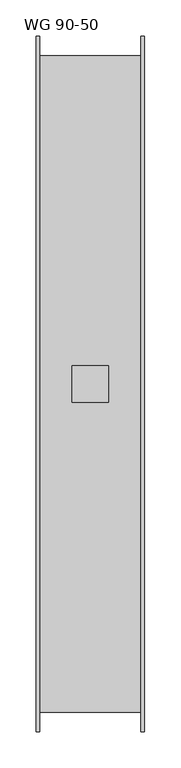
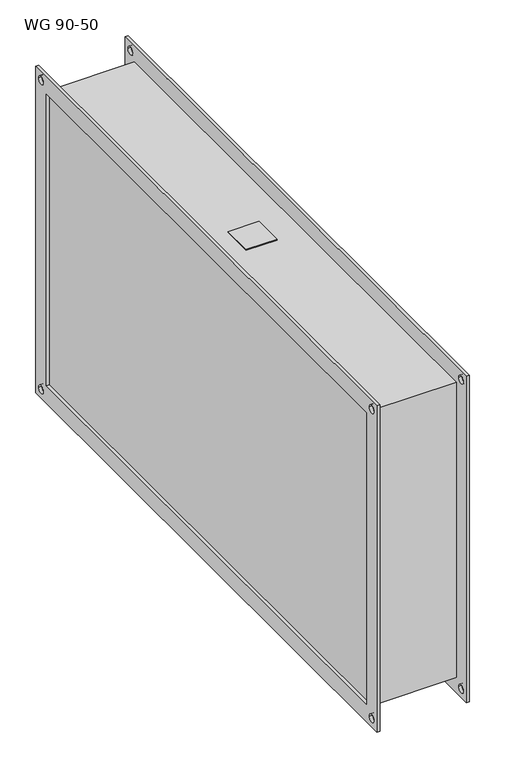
"""IFC4 building model written with IfcOpenShell, lengths in millimetres: damper geometry, KORF_Вставка_Гибкая_WG : WG 90-50."""

import ifcopenshell
import ifcopenshell.guid

model = None  # the IFC model being written
_history = None  # IfcOwnerHistory: only IFC2X3 demands one
_inside = {}  # id of a spatial element -> (the spatial element, [elements in it])
_under = {}  # id of a project, library or spatial element -> (it, [spatial elements below it])
_declared = {}  # id of a project -> (the project, [libraries it declares])
_typed = {}  # id of a type object -> (the type object, [elements of that type])
_made_of = {}  # id of a material, layer set ... -> (it, [elements and type objects made of it])


def new_model(schema):
    """Start an empty IFC model of exactly this schema.

    Asked for "IFC4X3", IfcOpenShell would pick the latest addendum, in which some entities
    have other attributes; the version numbers below select the first issue.
    IFC2X3 requires an IfcOwnerHistory on every rooted entity: one is made here for all.
    """
    global model, _history
    if schema == "IFC4X3":
        model = ifcopenshell.file(schema_version=(4, 3, 0, 0))
    else:
        model = ifcopenshell.file(schema=schema)
    _inside.clear()
    _under.clear()
    _declared.clear()
    _typed.clear()
    _made_of.clear()
    _history = None
    if model.schema == "IFC2X3":
        org = make("IfcOrganization", Name="unknown")
        user = make(
            "IfcPersonAndOrganization",
            ThePerson=make("IfcPerson", FamilyName="unknown"),
            TheOrganization=org,
        )
        app = make(
            "IfcApplication",
            ApplicationDeveloper=org,
            Version="unknown",
            ApplicationFullName="unknown",
            ApplicationIdentifier="unknown",
        )
        _history = make(
            "IfcOwnerHistory",
            OwningUser=user,
            OwningApplication=app,
            ChangeAction="ADDED",
            CreationDate=0,
        )
    return model


def make(cls, **values):
    """One entity of the class cls with the attributes given. An attribute that is None is left unset."""
    return model.create_entity(
        cls, **{name: value for name, value in values.items() if value is not None}
    )


def rooted(cls, **values):
    """An entity with a GlobalId (a new one), such as an element, a storey or a relation."""
    return make(cls, GlobalId=ifcopenshell.guid.new(), OwnerHistory=_history, **values)


def si_unit(unit_type, name, prefix=None):
    """IfcSIUnit, for example si_unit("LENGTHUNIT", "METRE", prefix="MILLI")."""
    return make("IfcSIUnit", UnitType=unit_type, Prefix=prefix, Name=name)


def assignment(units):
    """IfcUnitAssignment: the units of a project."""
    return None if units is None else make("IfcUnitAssignment", Units=units)


def point(xyz):
    """IfcCartesianPoint."""
    return None if xyz is None else make("IfcCartesianPoint", Coordinates=xyz)


def direction(xyz):
    """IfcDirection."""
    return None if xyz is None else make("IfcDirection", DirectionRatios=xyz)


def frame(location, z_axis=None, x_axis=None):
    """IfcAxis2Placement3D, a coordinate frame: its origin and axes. An axis left out is left unset."""
    return make(
        "IfcAxis2Placement3D",
        Location=point(location),
        Axis=direction(z_axis),
        RefDirection=direction(x_axis),
    )


def frame_2d(location, x_axis=None):
    """IfcAxis2Placement2D, a coordinate frame in the plane: its origin and x axis."""
    return make(
        "IfcAxis2Placement2D", Location=point(location), RefDirection=direction(x_axis)
    )


def origin():
    """The frame at (0, 0, 0) with its axes left unset."""
    return frame((0.0, 0.0, 0.0))


def place(relative_to, where):
    """IfcLocalPlacement: puts the frame where relative to a parent placement (None: the world)."""
    return make(
        "IfcLocalPlacement", PlacementRelTo=relative_to, RelativePlacement=where
    )


def context(
    kind, dimensions, precision=None, world=None, true_north=None, identifier=None
):
    """IfcGeometricRepresentationContext, for example the 3D "Model" context."""
    return make(
        "IfcGeometricRepresentationContext",
        ContextIdentifier=identifier,
        ContextType=kind,
        CoordinateSpaceDimension=dimensions,
        Precision=precision,
        WorldCoordinateSystem=world,
        TrueNorth=true_north,
    )


def project(units=None, contexts=None):
    """IfcProject with its units and contexts."""
    return rooted(
        "IfcProject",
        Name="project",
        RepresentationContexts=contexts,
        UnitsInContext=assignment(units),
    )


def spatial(cls, under=None, at=None, **own):
    """A site, building, storey or space (cls), placed at a placement, below another one or the project."""
    s = rooted(cls, ObjectPlacement=at, **own)
    if under is not None:
        _under.setdefault(under.id(), (under, []))[1].append(s)
    return s


def polyline(points):
    """IfcPolyline through the points."""
    return make("IfcPolyline", Points=[point(p) for p in points])


def circle_curve(where, radius):
    """IfcCircle in the frame where."""
    return make("IfcCircle", Position=where, Radius=radius)


def trimmed(basis, trim1, trim2, sense, master):
    """IfcTrimmedCurve: the piece of a basis curve between two trims."""
    return make(
        "IfcTrimmedCurve",
        BasisCurve=basis,
        Trim1=trim1,
        Trim2=trim2,
        SenseAgreement=sense,
        MasterRepresentation=master,
    )


def segment(curve, same_sense, transition):
    """IfcCompositeCurveSegment."""
    return make(
        "IfcCompositeCurveSegment",
        Transition=transition,
        SameSense=same_sense,
        ParentCurve=curve,
    )


def composite_curve(segments, self_intersect=None):
    """IfcCompositeCurve: segments joined end to end."""
    return make("IfcCompositeCurve", Segments=segments, SelfIntersect=self_intersect)


def outline(outer, holes=None, kind="AREA"):
    """IfcArbitraryClosedProfileDef: a profile drawn as a closed curve; with holes, ...WithVoids."""
    if holes is None:
        return make("IfcArbitraryClosedProfileDef", ProfileType=kind, OuterCurve=outer)
    return make(
        "IfcArbitraryProfileDefWithVoids",
        ProfileType=kind,
        OuterCurve=outer,
        InnerCurves=holes,
    )


def extrude(swept, where, along, depth):
    """IfcExtrudedAreaSolid: the profile swept, set in the frame where, extruded along a direction by depth."""
    return make(
        "IfcExtrudedAreaSolid",
        SweptArea=swept,
        Position=where,
        ExtrudedDirection=direction(along),
        Depth=depth,
    )


def shape(context_of_items, identifier, shape_type, items):
    """IfcShapeRepresentation: the items that make up one representation, for example the "Body"."""
    return make(
        "IfcShapeRepresentation",
        ContextOfItems=context_of_items,
        RepresentationIdentifier=identifier,
        RepresentationType=shape_type,
        Items=items,
    )


def source(mapping_origin, context_of_items, identifier, shape_type, items):
    """IfcRepresentationMap: a shape defined once, which mapped items show again and again."""
    return make(
        "IfcRepresentationMap",
        MappingOrigin=mapping_origin,
        MappedRepresentation=shape(context_of_items, identifier, shape_type, items),
    )


def transform(
    local_origin,
    x_axis=None,
    y_axis=None,
    z_axis=None,
    scale=None,
    scale2=None,
    scale3=None,
    uniform=True,
):
    """IfcCartesianTransformationOperator3D, or its non-uniform kind. x_axis, y_axis, z_axis: its Axis1, 2, 3."""
    if uniform:
        return make(
            "IfcCartesianTransformationOperator3D",
            Axis1=direction(x_axis),
            Axis2=direction(y_axis),
            LocalOrigin=point(local_origin),
            Scale=scale,
            Axis3=direction(z_axis),
        )
    return make(
        "IfcCartesianTransformationOperator3DnonUniform",
        Axis1=direction(x_axis),
        Axis2=direction(y_axis),
        LocalOrigin=point(local_origin),
        Scale=scale,
        Axis3=direction(z_axis),
        Scale2=scale2,
        Scale3=scale3,
    )


def mapped(mapping_source, mapping_target):
    """IfcMappedItem: shows the shape of a source again, moved by a transform."""
    return make(
        "IfcMappedItem", MappingSource=mapping_source, MappingTarget=mapping_target
    )


def made_of(thing, what):
    """Note that an element or type object is made of a material, layer set ...; save() writes the relation."""
    if what is not None:
        _made_of.setdefault(what.id(), (what, []))[1].append(thing)
    return thing


def element(
    cls,
    number,
    at=None,
    inside=None,
    cuts=None,
    type_object=None,
    material=None,
    context=None,
    identifier="Body",
    shape_type=None,
    held_by="IfcProductDefinitionShape",
    body=None,
    shapes=None,
    **own,
):
    """One element of the class cls, such as IfcWall. Its Tag is "e" and its number.

    at: its placement. inside: the storey or other place that contains it. cuts: it is an
    opening in that element (IfcRelVoidsElement). A single representation is given by context,
    identifier, shape_type and body (its items); several are given by shapes. held_by: the class
    of the entity that holds the representations. save() writes the other relations.
    """
    e = rooted(cls, Tag="e%d" % number, ObjectPlacement=at, **own)
    if body is not None:
        shapes = [shape(context, identifier, shape_type, body)]
    if shapes is not None:
        e.Representation = make(held_by, Representations=shapes)
    if inside is not None:
        _inside.setdefault(inside.id(), (inside, []))[1].append(e)
    if cuts is not None:
        rooted(
            "IfcRelVoidsElement", RelatingBuildingElement=cuts, RelatedOpeningElement=e
        )
    if type_object is not None:
        _typed.setdefault(type_object.id(), (type_object, []))[1].append(e)
    return made_of(e, material)


def aggregate(whole, parts):
    """IfcRelAggregates: a whole, such as a stair, and the parts it consists of."""
    return rooted("IfcRelAggregates", RelatingObject=whole, RelatedObjects=parts)


def save(model, path):
    """Write the relations noted so far, then the file.

    IfcRelAggregates (storeys below a building ...), IfcRelContainedInSpatialStructure (elements
    in a storey), IfcRelDefinesByType, IfcRelAssociatesMaterial and IfcRelDeclares: one each for
    every whole, place, type object, material and project.
    """
    for whole, parts in _under.values():
        aggregate(whole, parts)
    for where, things in _inside.values():
        rooted(
            "IfcRelContainedInSpatialStructure",
            RelatedElements=things,
            RelatingStructure=where,
        )
    for kind, things in _typed.values():
        rooted("IfcRelDefinesByType", RelatedObjects=things, RelatingType=kind)
    for what, things in _made_of.values():
        rooted("IfcRelAssociatesMaterial", RelatedObjects=things, RelatingMaterial=what)
    for by, libraries in _declared.values():
        rooted("IfcRelDeclares", RelatingContext=by, RelatedDefinitions=libraries)
    model.write(path)


def wg_90_50_df9ed7cd(model_context):
    return source(origin(), model_context, "Body", "SweptSolid", [
        extrude(outline(polyline([(50.0, -25.0), (50.0, 25.0), (100.0, 25.0), (100.0, -25.0), (50.0, -25.0)])), frame((0.0, 0.0, 253.0), z_axis=(0.0, 0.0, 1.0), x_axis=(1.0, 0.0, 0.0)), (0.0, 0.0, 1.0), 2.0),
        extrude(outline(polyline([(-480.0, 280.0), (480.0, 280.0), (480.0, -280.0), (-480.0, -280.0), (-480.0, 280.0)]), holes=[polyline([(-450.0, 250.0), (-450.0, -250.0), (450.0, -250.0), (450.0, 250.0), (-450.0, 250.0)]), composite_curve([segment(trimmed(circle_curve(frame_2d((465.0, 265.0)), 6.5), [point((458.5, 265.0))], [point((471.5, 265.0))], True, "CARTESIAN"), True, "CONTINUOUS"), segment(trimmed(circle_curve(frame_2d((465.0, 265.0)), 6.5), [point((471.5, 265.0))], [point((458.5, 265.0))], True, "CARTESIAN"), True, "CONTINUOUS")], self_intersect=False), composite_curve([segment(trimmed(circle_curve(frame_2d((-465.0, 265.0)), 6.5), [point((-471.5, 265.0))], [point((-458.5, 265.0))], True, "CARTESIAN"), True, "CONTINUOUS"), segment(trimmed(circle_curve(frame_2d((-465.0, 265.0)), 6.5), [point((-458.5, 265.0))], [point((-471.5, 265.0))], True, "CARTESIAN"), True, "CONTINUOUS")], self_intersect=False), composite_curve([segment(trimmed(circle_curve(frame_2d((-465.0, -265.0)), 6.5), [point((-471.5, -265.0))], [point((-458.5, -265.0))], True, "CARTESIAN"), True, "CONTINUOUS"), segment(trimmed(circle_curve(frame_2d((-465.0, -265.0)), 6.5), [point((-458.5, -265.0))], [point((-471.5, -265.0))], True, "CARTESIAN"), True, "CONTINUOUS")], self_intersect=False), composite_curve([segment(trimmed(circle_curve(frame_2d((465.0, -265.0)), 6.5), [point((458.5, -265.0))], [point((471.5, -265.0))], True, "CARTESIAN"), True, "CONTINUOUS"), segment(trimmed(circle_curve(frame_2d((465.0, -265.0)), 6.5), [point((471.5, -265.0))], [point((458.5, -265.0))], True, "CARTESIAN"), True, "CONTINUOUS")], self_intersect=False)]), frame((145.0, 0.0, 0.0), z_axis=(1.0, 0.0, 0.0), x_axis=(0.0, 1.0, 0.0)), (0.0, 0.0, 1.0), 5.0),
        extrude(outline(polyline([(-480.0, 280.0), (480.0, 280.0), (480.0, -280.0), (-480.0, -280.0), (-480.0, 280.0)]), holes=[polyline([(-450.0, 250.0), (-450.0, -250.0), (450.0, -250.0), (450.0, 250.0), (-450.0, 250.0)]), composite_curve([segment(trimmed(circle_curve(frame_2d((465.0, 265.0)), 6.5), [point((458.5, 265.0))], [point((471.5, 265.0))], True, "CARTESIAN"), True, "CONTINUOUS"), segment(trimmed(circle_curve(frame_2d((465.0, 265.0)), 6.5), [point((471.5, 265.0))], [point((458.5, 265.0))], True, "CARTESIAN"), True, "CONTINUOUS")], self_intersect=False), composite_curve([segment(trimmed(circle_curve(frame_2d((-465.0, 265.0)), 6.5), [point((-471.5, 265.0))], [point((-458.5, 265.0))], True, "CARTESIAN"), True, "CONTINUOUS"), segment(trimmed(circle_curve(frame_2d((-465.0, 265.0)), 6.5), [point((-458.5, 265.0))], [point((-471.5, 265.0))], True, "CARTESIAN"), True, "CONTINUOUS")], self_intersect=False), composite_curve([segment(trimmed(circle_curve(frame_2d((-465.0, -265.0)), 6.5), [point((-471.5, -265.0))], [point((-458.5, -265.0))], True, "CARTESIAN"), True, "CONTINUOUS"), segment(trimmed(circle_curve(frame_2d((-465.0, -265.0)), 6.5), [point((-458.5, -265.0))], [point((-471.5, -265.0))], True, "CARTESIAN"), True, "CONTINUOUS")], self_intersect=False), composite_curve([segment(trimmed(circle_curve(frame_2d((465.0, -265.0)), 6.5), [point((458.5, -265.0))], [point((471.5, -265.0))], True, "CARTESIAN"), True, "CONTINUOUS"), segment(trimmed(circle_curve(frame_2d((465.0, -265.0)), 6.5), [point((471.5, -265.0))], [point((458.5, -265.0))], True, "CARTESIAN"), True, "CONTINUOUS")], self_intersect=False)]), frame((0.0, 0.0, 0.0), z_axis=(1.0, 0.0, 0.0), x_axis=(0.0, 1.0, 0.0)), (0.0, 0.0, 1.0), 5.0),
        extrude(outline(polyline([(145.0, 453.0), (145.0, -453.0), (5.0, -453.0), (5.0, 453.0), (145.0, 453.0)])), frame((0.0, 0.0, -253.0), z_axis=(0.0, 0.0, 1.0), x_axis=(1.0, 0.0, 0.0)), (0.0, 0.0, 1.0), 506.0),
    ])


if __name__ == "__main__":
    model = new_model("IFC4")
    model_context = context("Model", 3, world=origin())
    ifc_project = project(units=[si_unit("LENGTHUNIT", "METRE", prefix="MILLI")], contexts=[model_context])
    site = spatial("IfcSite", under=ifc_project)
    building = spatial("IfcBuilding", under=site)
    placement = place(None, origin())
    wg_90_50_shape = wg_90_50_df9ed7cd(model_context)
    element("IfcDamper", 1, ObjectType="KORF_Вставка_Гибкая_WG : WG 90-50", at=placement, inside=building, context=model_context, shape_type="MappedRepresentation", body=[
        mapped(wg_90_50_shape, transform((0.0, 0.0, 0.0), x_axis=(1.0, 0.0, 0.0), y_axis=(0.0, 1.0, 0.0), z_axis=(0.0, 0.0, 1.0))),
    ])
    save(model, "model.ifc")
